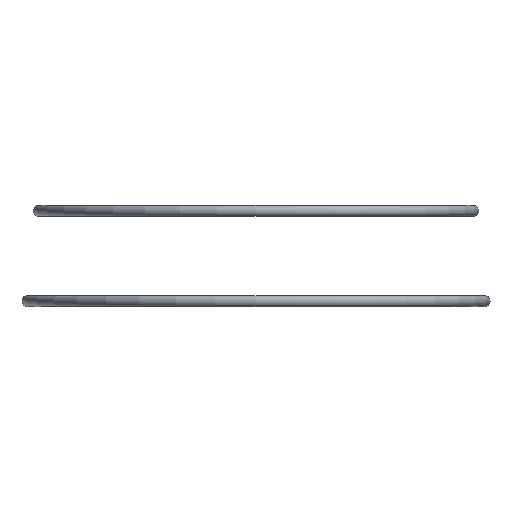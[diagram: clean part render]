
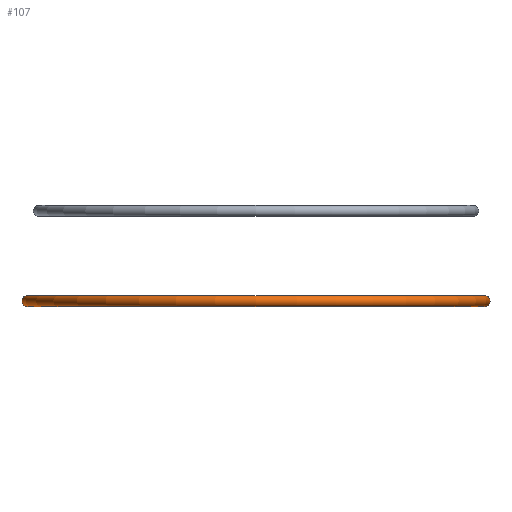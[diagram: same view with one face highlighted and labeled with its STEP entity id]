
A CAD part, front view. The second image highlights one B-rep face of the part: STEP entity #107.
In plain terms, the highlighted toroidal (fillet/blend) face has major radius 64.364 mm and minor radius 1.524 mm.
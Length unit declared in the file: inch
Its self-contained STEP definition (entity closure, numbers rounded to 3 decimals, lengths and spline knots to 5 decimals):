
#7=CARTESIAN_POINT('',(2.534,0.,0.06));
#8=DIRECTION('',(0.,1.,0.));
#9=DIRECTION('',(0.,0.,1.));
#10=AXIS2_PLACEMENT_3D('',#7,#8,#9);
#12=CARTESIAN_POINT('',(-2.534,0.,0.06));
#13=DIRECTION('',(0.,-1.,0.));
#14=DIRECTION('',(0.,0.,1.));
#15=AXIS2_PLACEMENT_3D('',#12,#13,#14);
#17=CARTESIAN_POINT('',(0.,0.,0.12));
#18=DIRECTION('',(0.,0.,-1.));
#19=DIRECTION('',(1.,0.,0.));
#20=AXIS2_PLACEMENT_3D('',#17,#18,#19);
#22=CARTESIAN_POINT('',(0.,0.,0.));
#23=DIRECTION('',(0.,0.,-1.));
#24=DIRECTION('',(1.,0.,0.));
#25=AXIS2_PLACEMENT_3D('',#22,#23,#24);
#62=CARTESIAN_POINT('',(2.534,0.,0.12));
#63=CARTESIAN_POINT('',(2.534,0.,0.));
#64=VERTEX_POINT('',#62);
#65=VERTEX_POINT('',#63);
#70=CARTESIAN_POINT('',(-2.534,0.,0.12));
#71=CARTESIAN_POINT('',(-2.534,0.,0.));
#72=VERTEX_POINT('',#70);
#73=VERTEX_POINT('',#71);
#94=CARTESIAN_POINT('',(0.,0.,0.06));
#95=DIRECTION('',(0.,0.,1.));
#96=DIRECTION('',(-1.,0.,0.));
#97=AXIS2_PLACEMENT_3D('',#94,#95,#96);
#98=TOROIDAL_SURFACE('',#97,2.534,0.06);
#99=ORIENTED_EDGE('',*,*,#83,.T.);
#101=ORIENTED_EDGE('',*,*,#100,.T.);
#102=ORIENTED_EDGE('',*,*,#87,.F.);
#104=ORIENTED_EDGE('',*,*,#103,.F.);
#105=EDGE_LOOP('',(#99,#101,#102,#104));
#106=FACE_OUTER_BOUND('',#105,.F.);
#107=ADVANCED_FACE('',(#106),#98,.T.);
#11=CIRCLE('',#10,0.06);
#16=CIRCLE('',#15,0.06);
#21=CIRCLE('',#20,2.534);
#26=CIRCLE('',#25,2.534);
#83=EDGE_CURVE('',#64,#65,#11,.T.);
#87=EDGE_CURVE('',#72,#73,#16,.T.);
#100=EDGE_CURVE('',#65,#73,#26,.T.);
#103=EDGE_CURVE('',#64,#72,#21,.T.);
